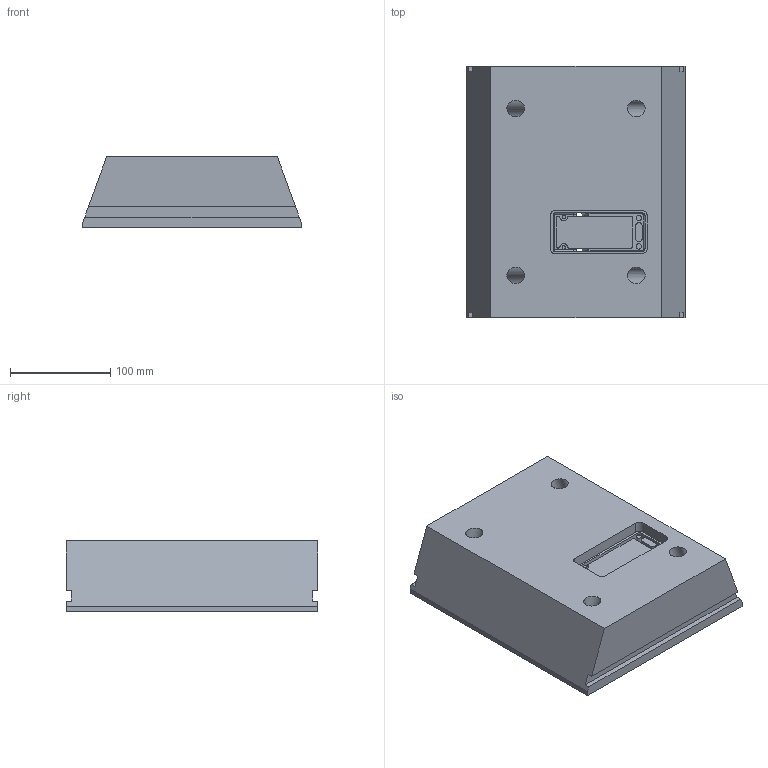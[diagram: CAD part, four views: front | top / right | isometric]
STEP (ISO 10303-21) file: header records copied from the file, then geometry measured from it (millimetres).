
FILE_DESCRIPTION( ( 'Unknown' ), '1' );
FILE_NAME( 'E:/Drawing Files Other/Dave/CDP/Support-Bracket 91mm Pitch/Support Bracket 91 Mould/Slide.stp', 'Unknown', ( 'Unknown' ), ( 'Unknown' ), 'PSStep 15.0.49', 'Unknown', ' ' );
FILE_SCHEMA( ( 'AUTOMOTIVE_DESIGN { 1 0 10303 214 1 1 1 1 }' ) );
Length unit declared in the file: millimetre
Products named in the file (2): 1; 2
Bounding box: 217.32 x 250 x 70 mm (x, y, z)
Volume: 3210552.2 mm3; surface area: 215096.8 mm2
Topology: 2 solids, 2 shells, 368 faces, 903 edges, 554 vertices
Faces by surface type: plane 158, cylinder 129, torus 28, bspline 23, cone 16, sphere 8, extrusion 6
Full cylindrical faces by diameter (mm): 2.222 x4, 3.333 x2, 3.535 x4, 4.04 x2, 5.555 x2, 7.07 x2, 10.1 x2, 16.5 x4, 20.2 x1
Entity records: 17242 total; most frequent: CARTESIAN_POINT 5960, DIRECTION 1727, ORIENTED_EDGE 1666, EDGE_CURVE 833, AXIS2_PLACEMENT_3D 620, VERTEX_POINT 531, VECTOR 487, LINE 481
